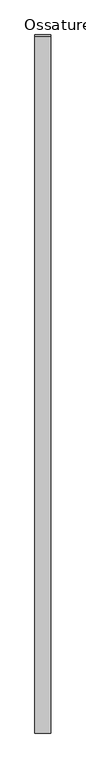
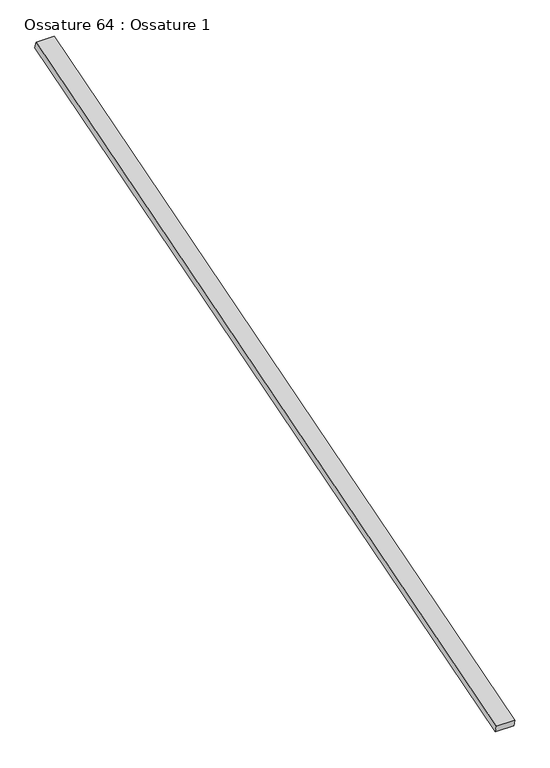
"""IFC4 building model written with IfcOpenShell, lengths in millimetres: beam geometry, Ossature 64 : Ossature 1."""

from ifc_helpers import new_model, si_unit, frame, origin, place, context, project, spatial, polyline, outline, extrude, source, transform, mapped, element, save


def ossature_64_ossature_1_be8f38b9(model_context):
    return source(origin(), model_context, "Body", "SweptSolid", [
        extrude(outline(polyline([(0.0, 0.0), (0.0, -4543.0299679), (-100.0, -4543.0299679), (-100.0, 0.0), (0.0, 0.0)])), frame((15534.8466393, -833.3913565, 8153.6336115), z_axis=(0.0, -0.28734788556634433, 0.9578262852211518), x_axis=(-1.0, 0.0, 0.0)), (0.0, 0.0, 1.0), 40.0),
    ])


if __name__ == "__main__":
    model = new_model("IFC4")
    model_context = context("Model", 3, world=origin())
    ifc_project = project(units=[si_unit("LENGTHUNIT", "METRE", prefix="MILLI")], contexts=[model_context])
    site = spatial("IfcSite", under=ifc_project)
    building = spatial("IfcBuilding", under=site)
    placement = place(None, origin())
    ossature_64_ossature_1_shape = ossature_64_ossature_1_be8f38b9(model_context)
    element("IfcBeam", 1, ObjectType="Ossature 64 : Ossature 1", at=placement, inside=building, context=model_context, shape_type="MappedRepresentation", body=[
        mapped(ossature_64_ossature_1_shape, transform((0.0, 0.0, 0.0), x_axis=(1.0, 0.0, 0.0), y_axis=(0.0, 1.0, 0.0), z_axis=(0.0, 0.0, 1.0))),
    ])
    save(model, "model.ifc")
